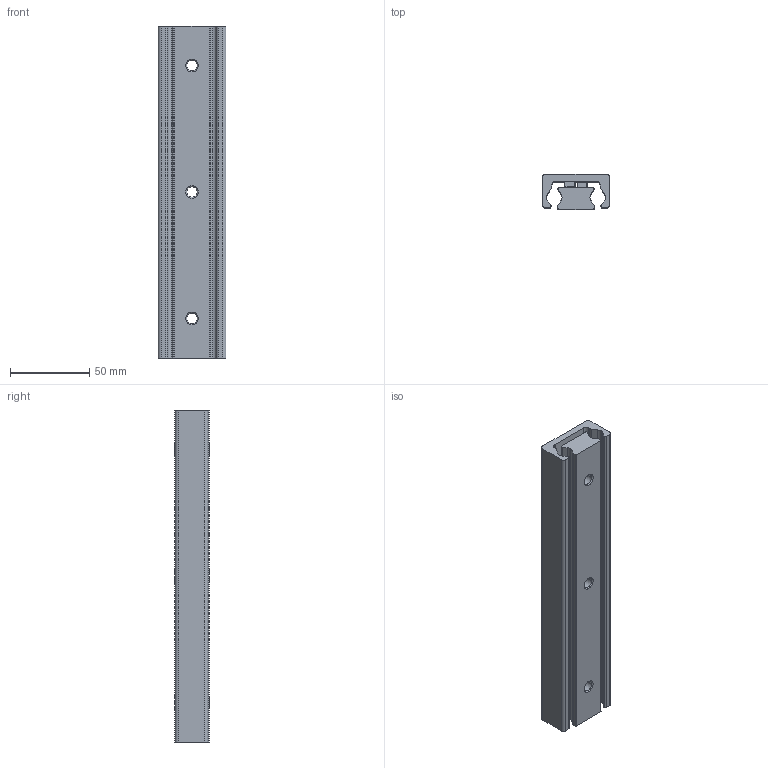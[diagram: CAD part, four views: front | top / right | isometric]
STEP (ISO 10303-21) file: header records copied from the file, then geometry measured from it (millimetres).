
FILE_DESCRIPTION(('STEP AP214'),'1');
FILE_NAME('rail_asn43-210_00.stp','2017-06-06T10:18:44',('TraceParts'),('TraceParts S.A.'),'Spatial InterOp 3D',' ',' ');
FILE_SCHEMA(('automotive_design'));
Length unit declared in the file: millimetre
Products named in the file (2): rail_asn43-210_00_1; rail_asn43-210_00_2
Bounding box: 43 x 22.01 x 210 mm (x, y, z)
Volume: 127962.5 mm3; surface area: 50862.6 mm2
Topology: 2 solids, 2 shells, 107 faces, 276 edges, 178 vertices
Faces by surface type: plane 46, cylinder 43, cone 18
Entity records: 3324 total; most frequent: DIRECTION 598, CARTESIAN_POINT 563, ORIENTED_EDGE 552, EDGE_CURVE 276, AXIS2_PLACEMENT_3D 213, VERTEX_POINT 178, LINE 172, VECTOR 172
